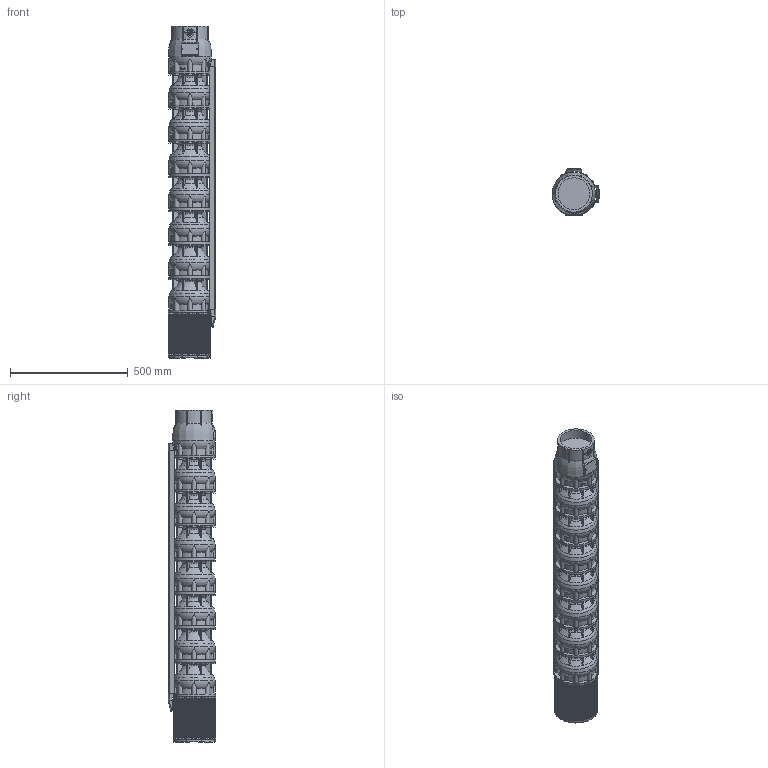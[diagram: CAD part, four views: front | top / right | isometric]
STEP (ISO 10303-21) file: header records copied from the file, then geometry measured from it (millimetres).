
FILE_DESCRIPTION(/* description */ ('Unknown'),/* implementation_level */ '2;1');
FILE_NAME(/* name */ 'VSI134-7_WR_M8-50_SLE',/* time_stamp */ '2023-09-14T15:03:22+02:00',/* author */ ('Unknown'),/* organization */ ('Unknown'),/* preprocessor_version */ 'ST-DEVELOPER v18.102',/* originating_system */ 'Solid Edge',/* authorisation */ 'Unknown');
FILE_SCHEMA (('AUTOMOTIVE_DESIGN {1 0 10303 214 3 1 1}'));
Products named in the file (11): VSI134-7_WR_M8-50_SLE; VSI134_testata; VSI134_diffusore; VSI134_supporto_8×8; VSI134_filtro_A; VSI134_filtro_B; VSI134_terminale_top_copricavo_basso; VSI134_terminale_bottom_copricavo_basso; LOW 134-7; M5X8_UNI7687; VSI134_giunto_8×8
Assembly tree (30 placements, depth 2):
  VSI134-7_WR_M8-50_SLE
    VSI134_testata
    VSI134_diffusore  x7
    VSI134_supporto_8×8
    VSI134_filtro_A
    VSI134_filtro_B
    VSI134_terminale_top_copricavo_basso  x2
    VSI134_terminale_bottom_copricavo_basso  x2
    LOW 134-7  x2
    M5X8_UNI7687  x12
    VSI134_giunto_8×8
Bounding box: 201.57 x 202.09 x 1412 mm (x, y, z)
Volume: 24872081.5 mm3; surface area: 2183279.7 mm2
Topology: 69 solids, 71 shells, 3817 faces, 10765 edges, 7177 vertices
Faces by surface type: plane 2823, cylinder 530, torus 357, cone 62, bspline 31, sphere 14
Full cylindrical faces by diameter (mm): 2.4 x2, 3 x2, 4.2 x16, 5 x12, 5.5 x8, 26 x1, 44 x1, 69 x1, 74 x1, 98 x1, 135.472 x1, 157 x1, 182 x8
Entity records: 85553 total; most frequent: CARTESIAN_POINT 18363, ORIENTED_EDGE 14056, DIRECTION 13490, EDGE_CURVE 7028, VERTEX_POINT 4730, AXIS2_PLACEMENT_3D 4596, LINE 4298, VECTOR 4298
